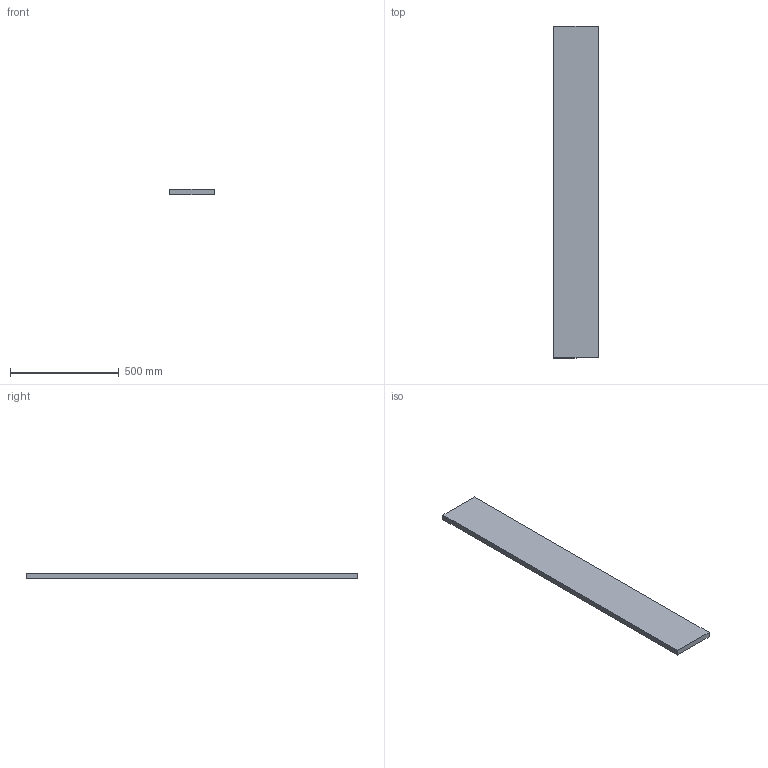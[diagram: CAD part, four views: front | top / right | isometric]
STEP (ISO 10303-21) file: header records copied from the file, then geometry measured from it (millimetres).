
FILE_DESCRIPTION(/* description */ ('STEP AP242 Edition 2','CAx-IF Rec.Pracs.---Representation and Presentation of Product Manufacturing Information (PMI)---4.0---2014-10-13','CAx-IF Rec.Pracs.---3D Tessellated Geometry---0.4---2014-09-14','2;1','CAx-IF Rec.Pracs.---User Defined Attributes---1.5---2016-08-15'),/* implementation_level */ '2;1');
FILE_NAME(/* name */ 'Assembly V2 - Part 1 (1)',/* time_stamp */ '2026-02-05T22:44:40Z',/* author */ (''),/* organization */ (''),/* preprocessor_version */ 'ST-DEVELOPER v20',/* originating_system */ 'ONSHAPE BY PTC INC, 1.210',/* authorisation */ ' ');
FILE_SCHEMA (('AP242_MANAGED_MODEL_BASED_3D_ENGINEERING_MIM_LF { 1 0 10303 442 3 1 4 }'));
Length unit declared in the file: metre
Products named in the file (1): Part 1
Bounding box: 203.2 x 1524 x 25.4 mm (x, y, z)
Volume: 7865790.7 mm3; surface area: 707095.4 mm2
Topology: 1 solids, 1 shells, 6 faces, 12 edges, 8 vertices
Faces by surface type: plane 6
Entity records: 178 total; most frequent: CARTESIAN_POINT 27, DIRECTION 26, ORIENTED_EDGE 24, EDGE_CURVE 12, LINE 12, VECTOR 12, VERTEX_POINT 8, AXIS2_PLACEMENT_3D 7
